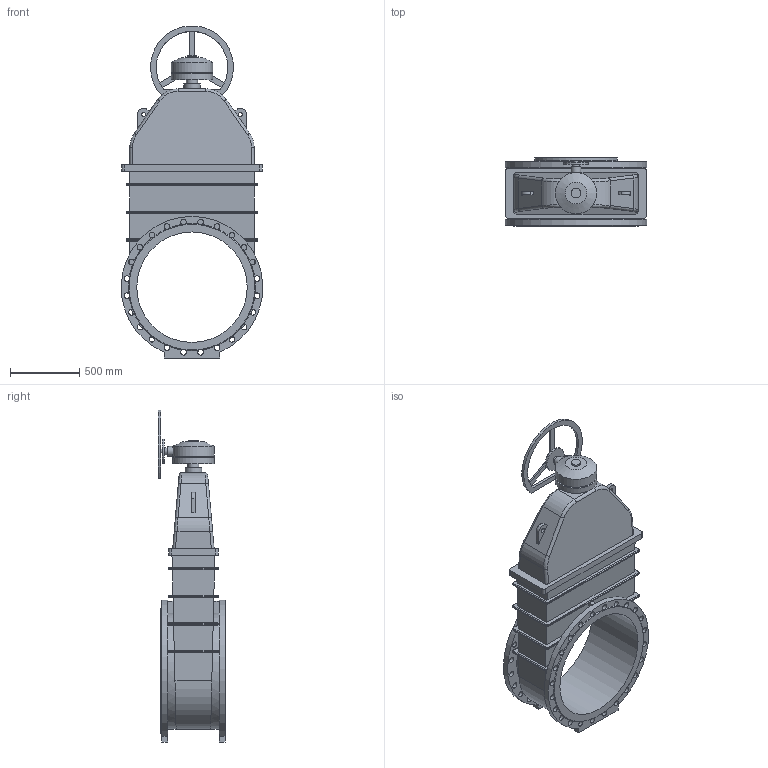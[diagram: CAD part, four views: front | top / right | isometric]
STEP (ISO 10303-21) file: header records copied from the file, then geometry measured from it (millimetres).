
FILE_DESCRIPTION(('STEP AP203'), '1');
FILE_NAME('Çàäâèæêà 47GV DN800 PN10_PN16_L470 + ðåäóêòîð ñ ìàõîâèêîì', '', ('UNSPECIFIED'), ('UNSPECIFIED'), 'ASCON STEP Converter 1.6', 'ASCON Math Kernel', '');
FILE_SCHEMA(('CONFIG_CONTROL_DESIGN'));
Length unit declared in the file: millimetre
Bounding box: 1024.56 x 490 x 2403.41 mm (x, y, z)
Volume: 337125223.9 mm3; surface area: 7591114.3 mm2
Topology: 1 solids, 1 shells, 403 faces, 1097 edges, 687 vertices
Faces by surface type: cylinder 169, plane 145, cone 49, bspline 40
Full cylindrical faces by diameter (mm): 14 x8, 18 x8, 30 x3, 41 x48, 50 x1, 70 x2, 80 x1, 100 x1, 120 x1, 175 x1, 280 x1, 300 x2, 800 x1
Entity records: 23615 total; most frequent: CARTESIAN_POINT 10616, ORIENTED_EDGE 2038, DIRECTION 1954, EDGE_CURVE 1019, AXIS2_PLACEMENT_3D 793, VERTEX_POINT 687, EDGE_LOOP 580, FACE_BOUND 475
